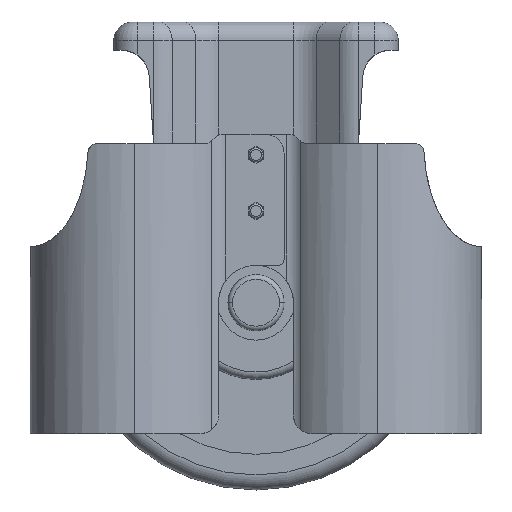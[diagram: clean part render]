
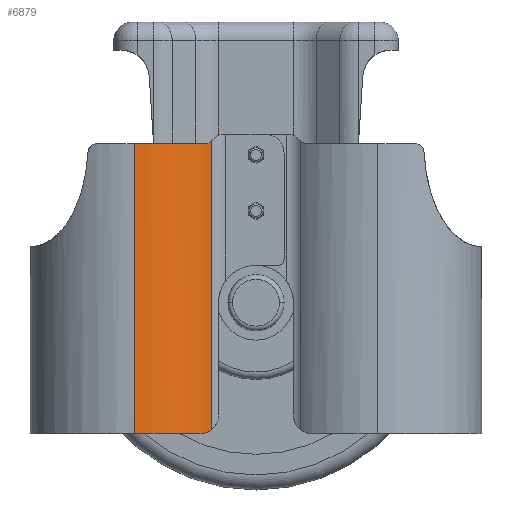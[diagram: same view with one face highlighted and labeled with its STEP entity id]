
A CAD part, top view. The second image highlights one B-rep face of the part: STEP entity #6879.
In plain terms, the highlighted cylindrical face has radius 55.6 mm (diameter 111.2 mm), a partial arc.
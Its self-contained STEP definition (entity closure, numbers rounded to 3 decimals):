
#117 = CARTESIAN_POINT ( 'NONE',  ( -65., -160., 55.6 ) ) ;
#345 = CARTESIAN_POINT ( 'NONE',  ( -25.041, -4.579, 38.663 ) ) ;
#404 = VECTOR ( 'NONE', #603, 1000. ) ;
#414 = CARTESIAN_POINT ( 'NONE',  ( -65., -160., 0. ) ) ;
#441 = VERTEX_POINT ( 'NONE', #5762 ) ;
#487 = CARTESIAN_POINT ( 'NONE',  ( -24.671, -158.48, 38.28 ) ) ;
#532 = AXIS2_PLACEMENT_3D ( 'NONE', #9153, #1322, #6835 ) ;
#603 = DIRECTION ( 'NONE',  ( 0., 1., 0. ) ) ;
#851 = CARTESIAN_POINT ( 'NONE',  ( -24.206, -158.17, 37.784 ) ) ;
#951 = CARTESIAN_POINT ( 'NONE',  ( -25.399, -158.883, 39.029 ) ) ;
#1110 = CARTESIAN_POINT ( 'NONE',  ( -27.741, -159.758, 41.275 ) ) ;
#1146 = CARTESIAN_POINT ( 'NONE',  ( -26.466, -5., 40.089 ) ) ;
#1196 = DIRECTION ( 'NONE',  ( 0., 0., 1. ) ) ;
#1285 = FACE_OUTER_BOUND ( 'NONE', #1311, .T. ) ;
#1311 = EDGE_LOOP ( 'NONE', ( #3094, #8291, #8626, #4882, #2666, #4458 ) ) ;
#1322 = DIRECTION ( 'NONE',  ( 0., 1., 0. ) ) ;
#1350 = CARTESIAN_POINT ( 'NONE',  ( -23.761, -160., 37.293 ) ) ;
#1573 = B_SPLINE_CURVE_WITH_KNOTS ( 'NONE', 3,
 ( #2709, #4945, #9468, #1110, #2623, #3881, #4322, #8247, #951, #487, #851, #8117 ),
 .UNSPECIFIED., .F., .F.,
 ( 4, 2, 2, 2, 2, 4 ),
 ( 0., 0.002, 0.004, 0.006, 0.007, 0.009 ),
 .UNSPECIFIED. ) ;
#1675 = EDGE_CURVE ( 'NONE', #9926, #3567, #8754, .T. ) ;
#1817 = VERTEX_POINT ( 'NONE', #5657 ) ;
#1911 = VECTOR ( 'NONE', #2143, 1000. ) ;
#2060 = EDGE_CURVE ( 'NONE', #1817, #8310, #1573, .T. ) ;
#2143 = DIRECTION ( 'NONE',  ( 0., 1., 0. ) ) ;
#2328 = EDGE_CURVE ( 'NONE', #4592, #3567, #6432, .T. ) ;
#2623 = CARTESIAN_POINT ( 'NONE',  ( -27.202, -159.617, 40.782 ) ) ;
#2666 = ORIENTED_EDGE ( 'NONE', *, *, #2717, .T. ) ;
#2709 = CARTESIAN_POINT ( 'NONE',  ( -30., -160., 43.201 ) ) ;
#2717 = EDGE_CURVE ( 'NONE', #441, #4592, #9197, .T. ) ;
#3094 = ORIENTED_EDGE ( 'NONE', *, *, #1675, .F. ) ;
#3471 = CARTESIAN_POINT ( 'NONE',  ( -24.001, -3.959, 37.557 ) ) ;
#3493 = CARTESIAN_POINT ( 'NONE',  ( -65., -160., 55.6 ) ) ;
#3567 = VERTEX_POINT ( 'NONE', #6809 ) ;
#3881 = CARTESIAN_POINT ( 'NONE',  ( -26.414, -159.339, 40.033 ) ) ;
#3919 = AXIS2_PLACEMENT_3D ( 'NONE', #414, #5918, #1196 ) ;
#3998 = LINE ( 'NONE', #1350, #1911 ) ;
#4040 = EDGE_CURVE ( 'NONE', #9926, #1817, #7003, .T. ) ;
#4322 = CARTESIAN_POINT ( 'NONE',  ( -26.155, -159.235, 39.781 ) ) ;
#4458 = ORIENTED_EDGE ( 'NONE', *, *, #2328, .T. ) ;
#4592 = VERTEX_POINT ( 'NONE', #4853 ) ;
#4853 = CARTESIAN_POINT ( 'NONE',  ( -27.071, -5., 40.654 ) ) ;
#4882 = ORIENTED_EDGE ( 'NONE', *, *, #5970, .T. ) ;
#4945 = CARTESIAN_POINT ( 'NONE',  ( -29.416, -160., 42.728 ) ) ;
#5071 = CARTESIAN_POINT ( 'NONE',  ( -24.771, -4.45, 38.381 ) ) ;
#5657 = CARTESIAN_POINT ( 'NONE',  ( -30., -160., 43.201 ) ) ;
#5762 = CARTESIAN_POINT ( 'NONE',  ( -23.761, -3.748, 37.293 ) ) ;
#5843 = CARTESIAN_POINT ( 'NONE',  ( -23.761, -157.815, 37.293 ) ) ;
#5853 = CARTESIAN_POINT ( 'NONE',  ( -25.882, -4.893, 39.519 ) ) ;
#5918 = DIRECTION ( 'NONE',  ( 0., 1., 0. ) ) ;
#5970 = EDGE_CURVE ( 'NONE', #8310, #441, #3998, .T. ) ;
#6432 = CIRCLE ( 'NONE', #8989, 55.6 ) ;
#6442 = DIRECTION ( 'NONE',  ( 0., 0., 1. ) ) ;
#6642 = CARTESIAN_POINT ( 'NONE',  ( -27.071, -5., 40.654 ) ) ;
#6809 = CARTESIAN_POINT ( 'NONE',  ( -65., -5., 55.6 ) ) ;
#6835 = DIRECTION ( 'NONE',  ( 0., 0., 1. ) ) ;
#6879 = ADVANCED_FACE ( 'NONE', ( #1285 ), #7324, .T. ) ;
#7003 = CIRCLE ( 'NONE', #3919, 55.6 ) ;
#7203 = DIRECTION ( 'NONE',  ( 0., -1., 0. ) ) ;
#7234 = CARTESIAN_POINT ( 'NONE',  ( -65., -5., 0. ) ) ;
#7324 = CYLINDRICAL_SURFACE ( 'NONE', #532, 55.6 ) ;
#7406 = CARTESIAN_POINT ( 'NONE',  ( -23.761, -3.748, 37.293 ) ) ;
#8117 = CARTESIAN_POINT ( 'NONE',  ( -23.761, -157.815, 37.293 ) ) ;
#8247 = CARTESIAN_POINT ( 'NONE',  ( -25.647, -159.007, 39.279 ) ) ;
#8291 = ORIENTED_EDGE ( 'NONE', *, *, #4040, .T. ) ;
#8310 = VERTEX_POINT ( 'NONE', #5843 ) ;
#8626 = ORIENTED_EDGE ( 'NONE', *, *, #2060, .T. ) ;
#8754 = LINE ( 'NONE', #117, #404 ) ;
#8989 = AXIS2_PLACEMENT_3D ( 'NONE', #7234, #7203, #6442 ) ;
#9153 = CARTESIAN_POINT ( 'NONE',  ( -65., -160., 0. ) ) ;
#9197 = B_SPLINE_CURVE_WITH_KNOTS ( 'NONE', 3,
 ( #7406, #3471, #9777, #5071, #345, #5853, #1146, #6642 ),
 .UNSPECIFIED., .F., .F.,
 ( 4, 2, 2, 4 ),
 ( 0., 0.001, 0.002, 0.005 ),
 .UNSPECIFIED. ) ;
#9468 = CARTESIAN_POINT ( 'NONE',  ( -28.848, -159.949, 42.248 ) ) ;
#9777 = CARTESIAN_POINT ( 'NONE',  ( -24.251, -4.14, 37.829 ) ) ;
#9926 = VERTEX_POINT ( 'NONE', #3493 ) ;
